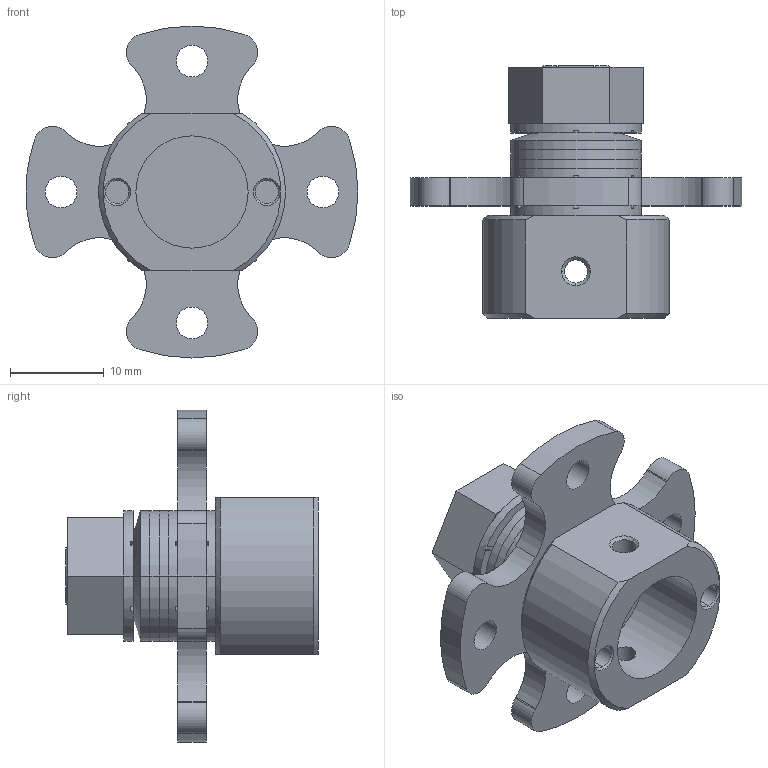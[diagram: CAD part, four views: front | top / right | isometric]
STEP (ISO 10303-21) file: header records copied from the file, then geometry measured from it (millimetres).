
FILE_DESCRIPTION (( 'STEP AP203' ), '1' );
FILE_NAME ('XG11-134.STEP', '2025-05-27T01:16:28', ( '微软用户' ), ( '微软中国' ), 'SwSTEP 2.0', 'SolidWorks 2024', '' );
FILE_SCHEMA (( 'CONFIG_CONTROL_DESIGN' ));
Length unit declared in the file: millimetre
Products named in the file (1): XG11-134
Bounding box: 35.5 x 27 x 35.5 mm (x, y, z)
Volume: 5805.6 mm3; surface area: 6270.5 mm2
Topology: 9 solids, 9 shells, 301 faces, 815 edges, 536 vertices
Faces by surface type: plane 120, cylinder 111, bspline 42, cone 28
Entity records: 16479 total; most frequent: CARTESIAN_POINT 9025, ORIENTED_EDGE 1630, DIRECTION 1401, EDGE_CURVE 815, VERTEX_POINT 536, AXIS2_PLACEMENT_3D 509, VECTOR 383, LINE 383
